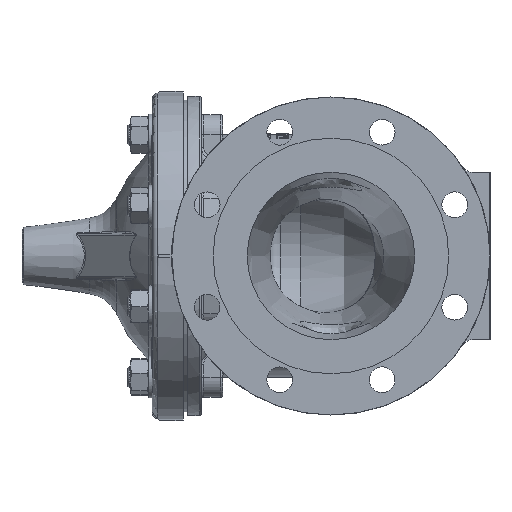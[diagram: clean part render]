
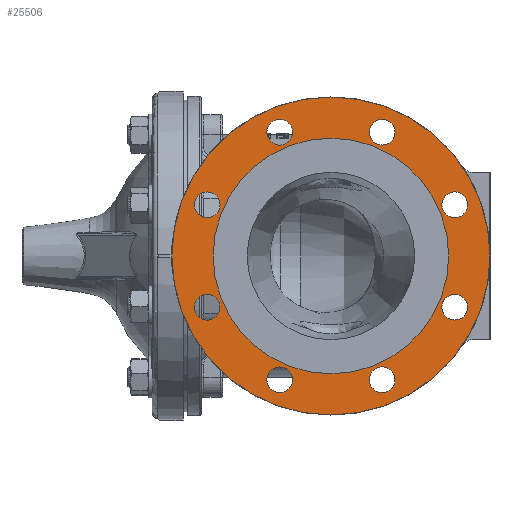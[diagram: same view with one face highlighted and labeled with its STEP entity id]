
A CAD part, left-side view. The second image highlights one B-rep face of the part: STEP entity #25506.
In plain terms, the highlighted planar face has unit normal (-1, 0, 0).
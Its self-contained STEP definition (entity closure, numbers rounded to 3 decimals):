
#826=FACE_BOUND('',#4532,.T.);
#827=FACE_BOUND('',#4533,.T.);
#828=FACE_BOUND('',#4534,.T.);
#829=FACE_BOUND('',#4535,.T.);
#830=FACE_BOUND('',#4536,.T.);
#831=FACE_BOUND('',#4537,.T.);
#832=FACE_BOUND('',#4538,.T.);
#833=FACE_BOUND('',#4539,.T.);
#834=FACE_BOUND('',#4540,.T.);
#1397=PLANE('',#27631);
#2945=FACE_OUTER_BOUND('',#4531,.T.);
#4531=EDGE_LOOP('',(#22542));
#4532=EDGE_LOOP('',(#22543));
#4533=EDGE_LOOP('',(#22544));
#4534=EDGE_LOOP('',(#22545));
#4535=EDGE_LOOP('',(#22546));
#4536=EDGE_LOOP('',(#22547));
#4537=EDGE_LOOP('',(#22548));
#4538=EDGE_LOOP('',(#22549));
#4539=EDGE_LOOP('',(#22550));
#4540=EDGE_LOOP('',(#22551));
#9557=CIRCLE('',#27632,142.5);
#9558=CIRCLE('',#27633,11.5);
#9559=CIRCLE('',#27634,11.5);
#9560=CIRCLE('',#27635,11.5);
#9561=CIRCLE('',#27636,11.5);
#9562=CIRCLE('',#27637,11.5);
#9563=CIRCLE('',#27638,11.5);
#9564=CIRCLE('',#27639,11.5);
#9565=CIRCLE('',#27640,11.5);
#9566=CIRCLE('',#27641,105.5);
#12015=VERTEX_POINT('',#58718);
#12016=VERTEX_POINT('',#58720);
#12017=VERTEX_POINT('',#58722);
#12018=VERTEX_POINT('',#58724);
#12019=VERTEX_POINT('',#58726);
#12020=VERTEX_POINT('',#58728);
#12021=VERTEX_POINT('',#58730);
#12022=VERTEX_POINT('',#58732);
#12023=VERTEX_POINT('',#58734);
#12024=VERTEX_POINT('',#58736);
#15659=EDGE_CURVE('',#12015,#12015,#9557,.T.);
#15660=EDGE_CURVE('',#12016,#12016,#9558,.T.);
#15661=EDGE_CURVE('',#12017,#12017,#9559,.T.);
#15662=EDGE_CURVE('',#12018,#12018,#9560,.T.);
#15663=EDGE_CURVE('',#12019,#12019,#9561,.T.);
#15664=EDGE_CURVE('',#12020,#12020,#9562,.T.);
#15665=EDGE_CURVE('',#12021,#12021,#9563,.T.);
#15666=EDGE_CURVE('',#12022,#12022,#9564,.T.);
#15667=EDGE_CURVE('',#12023,#12023,#9565,.T.);
#15668=EDGE_CURVE('',#12024,#12024,#9566,.T.);
#22542=ORIENTED_EDGE('',*,*,#15659,.F.);
#22543=ORIENTED_EDGE('',*,*,#15660,.T.);
#22544=ORIENTED_EDGE('',*,*,#15661,.T.);
#22545=ORIENTED_EDGE('',*,*,#15662,.T.);
#22546=ORIENTED_EDGE('',*,*,#15663,.T.);
#22547=ORIENTED_EDGE('',*,*,#15664,.T.);
#22548=ORIENTED_EDGE('',*,*,#15665,.T.);
#22549=ORIENTED_EDGE('',*,*,#15666,.T.);
#22550=ORIENTED_EDGE('',*,*,#15667,.T.);
#22551=ORIENTED_EDGE('',*,*,#15668,.F.);
#25506=ADVANCED_FACE('',(#2945,#826,#827,#828,#829,#830,#831,#832,#833,
#834),#1397,.F.);
#27631=AXIS2_PLACEMENT_3D('',#58717,#33056,#33057);
#27632=AXIS2_PLACEMENT_3D('',#58719,#33058,#33059);
#27633=AXIS2_PLACEMENT_3D('',#58721,#33060,#33061);
#27634=AXIS2_PLACEMENT_3D('',#58723,#33062,#33063);
#27635=AXIS2_PLACEMENT_3D('',#58725,#33064,#33065);
#27636=AXIS2_PLACEMENT_3D('',#58727,#33066,#33067);
#27637=AXIS2_PLACEMENT_3D('',#58729,#33068,#33069);
#27638=AXIS2_PLACEMENT_3D('',#58731,#33070,#33071);
#27639=AXIS2_PLACEMENT_3D('',#58733,#33072,#33073);
#27640=AXIS2_PLACEMENT_3D('',#58735,#33074,#33075);
#27641=AXIS2_PLACEMENT_3D('',#58737,#33076,#33077);
#33056=DIRECTION('center_axis',(1.,0.,0.));
#33057=DIRECTION('ref_axis',(0.,0.,
-1.));
#33058=DIRECTION('center_axis',(1.,0.,0.));
#33059=DIRECTION('ref_axis',(0.,0.,
-1.));
#33060=DIRECTION('center_axis',(1.,0.,0.));
#33061=DIRECTION('ref_axis',(0.,-0.707,0.707));
#33062=DIRECTION('center_axis',(1.,0.,0.));
#33063=DIRECTION('ref_axis',(0.,-1.,0.));
#33064=DIRECTION('center_axis',(1.,0.,0.));
#33065=DIRECTION('ref_axis',(0.,-0.707,-0.707));
#33066=DIRECTION('center_axis',(1.,0.,0.));
#33067=DIRECTION('ref_axis',(0.,0.,
-1.));
#33068=DIRECTION('center_axis',(1.,0.,0.));
#33069=DIRECTION('ref_axis',(0.,0.707,-0.707));
#33070=DIRECTION('center_axis',(1.,0.,0.));
#33071=DIRECTION('ref_axis',(0.,1.,0.));
#33072=DIRECTION('center_axis',(1.,0.,0.));
#33073=DIRECTION('ref_axis',(0.,0.707,0.707));
#33074=DIRECTION('center_axis',(1.,0.,0.));
#33075=DIRECTION('ref_axis',(0.,0.,
1.));
#33076=DIRECTION('center_axis',(-1.,0.,0.));
#33077=DIRECTION('ref_axis',(0.,0.,
-1.));
#58717=CARTESIAN_POINT('Origin',(-237.,-0.02,0.));
#58718=CARTESIAN_POINT('',(-237.,-0.02,142.5));
#58719=CARTESIAN_POINT('Origin',(-237.,-0.02,0.));
#58720=CARTESIAN_POINT('',(-237.,118.977,-54.054));
#58721=CARTESIAN_POINT('Origin',(-237.,110.846,-45.922));
#58722=CARTESIAN_POINT('',(-237.,122.346,45.922));
#58723=CARTESIAN_POINT('Origin',(-237.,110.846,45.922));
#58724=CARTESIAN_POINT('',(-237.,54.034,118.997));
#58725=CARTESIAN_POINT('Origin',(-237.,45.902,110.866));
#58726=CARTESIAN_POINT('',(-237.,-45.942,122.366));
#58727=CARTESIAN_POINT('Origin',(-237.,-45.942,110.866));
#58728=CARTESIAN_POINT('',(-237.,-119.017,54.054));
#58729=CARTESIAN_POINT('Origin',(-237.,-110.886,45.922));
#58730=CARTESIAN_POINT('',(-237.,-122.386,-45.922));
#58731=CARTESIAN_POINT('Origin',(-237.,-110.886,-45.922));
#58732=CARTESIAN_POINT('',(-237.,-54.074,-118.997));
#58733=CARTESIAN_POINT('Origin',(-237.,-45.942,-110.866));
#58734=CARTESIAN_POINT('',(-237.,45.902,-122.366));
#58735=CARTESIAN_POINT('Origin',(-237.,45.902,-110.866));
#58736=CARTESIAN_POINT('',(-237.,-0.02,105.5));
#58737=CARTESIAN_POINT('Origin',(-237.,-0.02,0.));
